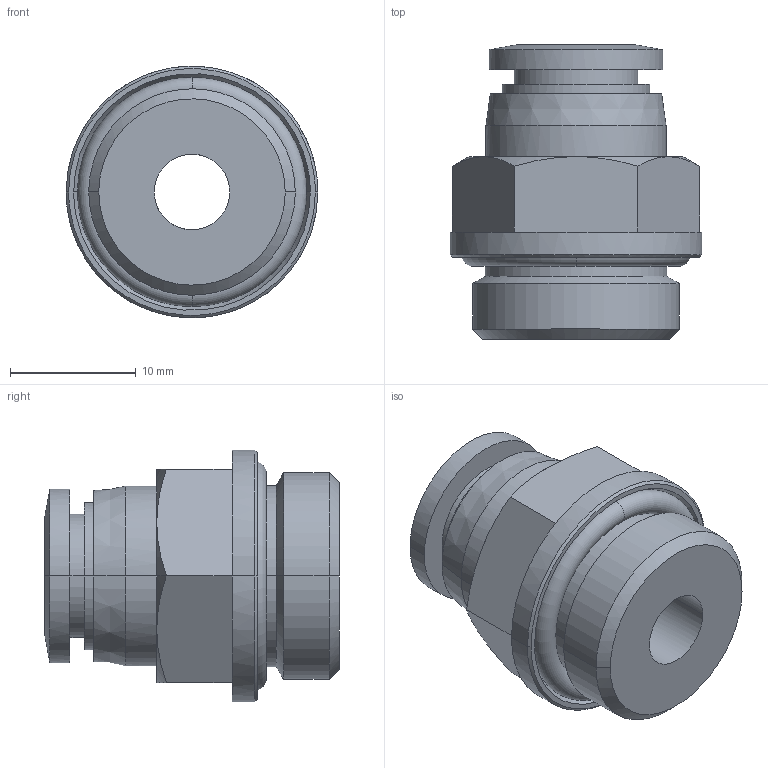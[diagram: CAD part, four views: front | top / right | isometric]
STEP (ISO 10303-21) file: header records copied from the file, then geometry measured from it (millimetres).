
FILE_DESCRIPTION (( 'STEP AP203' ), '1' );
FILE_NAME ('FH08-03.STEP', '2020-04-28T13:40:05', ( '' ), ( '' ), 'SwSTEP 2.0', 'SolidWorks 2019', '' );
FILE_SCHEMA (( 'CONFIG_CONTROL_DESIGN' ));
Length unit declared in the file: millimetre
Products named in the file (1): FH08-03
Bounding box: 20 x 23.4 x 20 mm (x, y, z)
Surface area: 2866.2 mm2 (no closed solid volume)
Topology: 0 solids, 4 shells, 62 faces, 138 edges, 87 vertices
Faces by surface type: cylinder 20, cone 19, plane 17, torus 6
Entity records: 3090 total; most frequent: CARTESIAN_POINT 1840, ORIENTED_EDGE 260, DIRECTION 171, EDGE_CURVE 138, B_SPLINE_CURVE_WITH_KNOTS 99, VERTEX_POINT 87, EDGE_LOOP 73, AXIS2_PLACEMENT_3D 69
